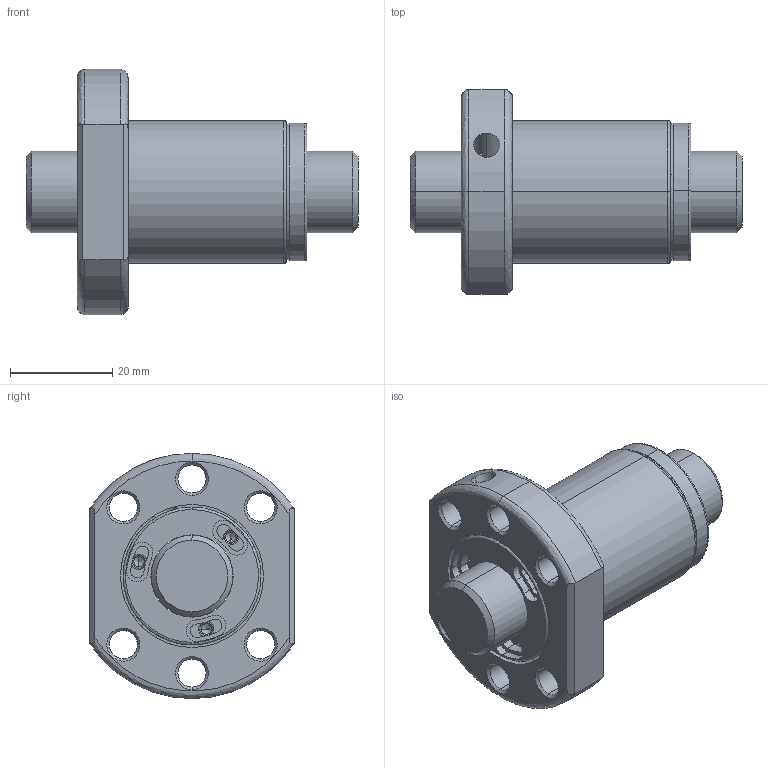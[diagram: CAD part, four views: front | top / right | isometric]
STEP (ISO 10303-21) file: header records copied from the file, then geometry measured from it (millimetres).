
FILE_DESCRIPTION (( 'STEP AP203' ), '1' );
FILE_NAME ('SFSR01616A1D-C.STEP', '2020-06-17T00:55:17', ( '' ), ( '' ), 'SwSTEP 2.0', 'SolidWorks 2013', '' );
FILE_SCHEMA (( 'CONFIG_CONTROL_DESIGN' ));
Length unit declared in the file: millimetre
Products named in the file (1): SFSR01616A1D-C
Bounding box: 65 x 40 x 48 mm (x, y, z)
Volume: 38858 mm3; surface area: 15395.6 mm2
Topology: 2 solids, 2 shells, 239 faces, 574 edges, 349 vertices
Faces by surface type: cylinder 121, plane 54, cone 52, bspline 12
Entity records: 7491 total; most frequent: CARTESIAN_POINT 1715, DIRECTION 1325, ORIENTED_EDGE 1124, AXIS2_PLACEMENT_3D 569, EDGE_CURVE 562, VERTEX_POINT 349, CIRCLE 341, EDGE_LOOP 279
